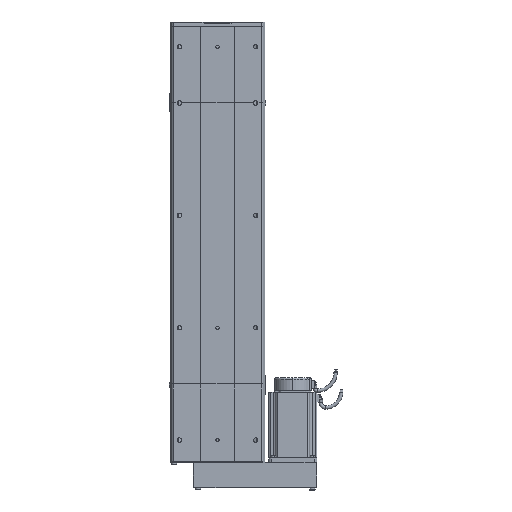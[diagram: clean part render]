
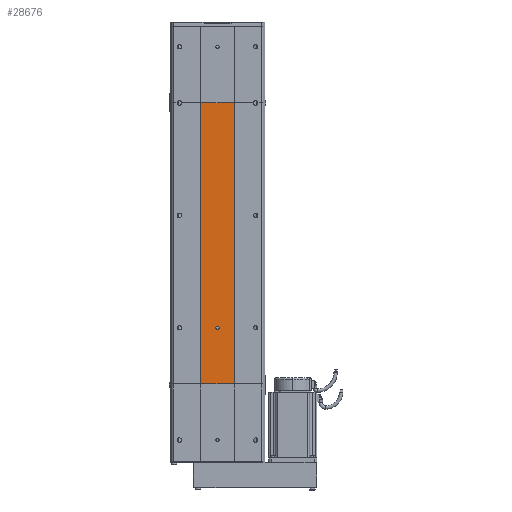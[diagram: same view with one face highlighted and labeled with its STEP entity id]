
A CAD part, front view. The second image highlights one B-rep face of the part: STEP entity #28676.
In plain terms, the highlighted planar face has unit normal (0, -1, 0).
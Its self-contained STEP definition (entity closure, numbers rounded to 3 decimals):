
#27514 = VERTEX_POINT ( 'NONE', #67497 ) ;
#27530 = VERTEX_POINT ( 'NONE', #67398 ) ;
#27653 = VERTEX_POINT ( 'NONE', #61915 ) ;
#27743 = EDGE_CURVE ( 'NONE', #27653, #27514, #61968, .T. ) ;
#27796 = VERTEX_POINT ( 'NONE', #61982 ) ;
#27813 = EDGE_CURVE ( 'NONE', #27796, #27530, #62169, .T. ) ;
#28532 = EDGE_CURVE ( 'NONE', #28535, #28638, #64085, .T. ) ;
#28535 = VERTEX_POINT ( 'NONE', #64138 ) ;
#28638 = VERTEX_POINT ( 'NONE', #64395 ) ;
#28676 = ADVANCED_FACE ( 'NONE', ( #64330, #64334 ), #64333, .F. ) ;
#28677 = ORIENTED_EDGE ( 'NONE', *, *, #27743, .F. ) ;
#28679 = ORIENTED_EDGE ( 'NONE', *, *, #28685, .F. ) ;
#28685 = EDGE_CURVE ( 'NONE', #28638, #27530, #64374, .T. ) ;
#28727 = ORIENTED_EDGE ( 'NONE', *, *, #28815, .T. ) ;
#28743 = ORIENTED_EDGE ( 'NONE', *, *, #28532, .F. ) ;
#28760 = ORIENTED_EDGE ( 'NONE', *, *, #28855, .F. ) ;
#28815 = EDGE_CURVE ( 'NONE', #28535, #27796, #64451, .T. ) ;
#28819 = EDGE_LOOP ( 'NONE', ( #28760, #28677 ) ) ;
#28847 = EDGE_LOOP ( 'NONE', ( #28859, #28679, #28743, #28727 ) ) ;
#28855 = EDGE_CURVE ( 'NONE', #27514, #27653, #64814, .T. ) ;
#28859 = ORIENTED_EDGE ( 'NONE', *, *, #27813, .T. ) ;
#61915 = CARTESIAN_POINT ( 'NONE',  ( 0., -32.5, 103. ) ) ;
#61966 = CARTESIAN_POINT ( 'NONE',  ( 0., -32.5, 100. ) ) ;
#61967 = AXIS2_PLACEMENT_3D ( 'NONE', #61966, #62118, #62117 ) ;
#61968 = CIRCLE ( 'NONE', #61967, 3. ) ;
#61982 = CARTESIAN_POINT ( 'NONE',  ( 30., -32.5, 500. ) ) ;
#62117 = DIRECTION ( 'NONE',  ( 0., 0., -1. ) ) ;
#62118 = DIRECTION ( 'NONE',  ( 0., -1., 0. ) ) ;
#62166 = DIRECTION ( 'NONE',  ( -1., 0., 0. ) ) ;
#62167 = VECTOR ( 'NONE', #62166, 1000. ) ;
#62168 = CARTESIAN_POINT ( 'NONE',  ( -30., -32.5, 500. ) ) ;
#62169 = LINE ( 'NONE', #62168, #62167 ) ;
#64085 = LINE ( 'NONE', #64106, #64105 ) ;
#64104 = DIRECTION ( 'NONE',  ( -1., 0., 0. ) ) ;
#64105 = VECTOR ( 'NONE', #64104, 1000. ) ;
#64106 = CARTESIAN_POINT ( 'NONE',  ( -30., -32.5, 0. ) ) ;
#64138 = CARTESIAN_POINT ( 'NONE',  ( 30., -32.5, 0. ) ) ;
#64280 = VECTOR ( 'NONE', #64377, 1000. ) ;
#64285 = CARTESIAN_POINT ( 'NONE',  ( -30., -32.5, 0. ) ) ;
#64329 = CARTESIAN_POINT ( 'NONE',  ( -30., -32.5, 0. ) ) ;
#64330 = FACE_BOUND ( 'NONE', #28819, .T. ) ;
#64333 = PLANE ( 'NONE',  #64371 ) ;
#64334 = FACE_OUTER_BOUND ( 'NONE', #28847, .T. ) ;
#64371 = AXIS2_PLACEMENT_3D ( 'NONE', #64329, #64385, #64384 ) ;
#64374 = LINE ( 'NONE', #64285, #64280 ) ;
#64377 = DIRECTION ( 'NONE',  ( 0., 0., 1. ) ) ;
#64384 = DIRECTION ( 'NONE',  ( 0., 0., 1. ) ) ;
#64385 = DIRECTION ( 'NONE',  ( 0., 1., 0. ) ) ;
#64395 = CARTESIAN_POINT ( 'NONE',  ( -30., -32.5, 0. ) ) ;
#64448 = DIRECTION ( 'NONE',  ( 0., 0., 1. ) ) ;
#64449 = VECTOR ( 'NONE', #64448, 1000. ) ;
#64450 = CARTESIAN_POINT ( 'NONE',  ( 30., -32.5, 0. ) ) ;
#64451 = LINE ( 'NONE', #64450, #64449 ) ;
#64811 = DIRECTION ( 'NONE',  ( 0., 0., -1. ) ) ;
#64812 = DIRECTION ( 'NONE',  ( 0., -1., 0. ) ) ;
#64814 = CIRCLE ( 'NONE', #64820, 3. ) ;
#64819 = CARTESIAN_POINT ( 'NONE',  ( 0., -32.5, 100. ) ) ;
#64820 = AXIS2_PLACEMENT_3D ( 'NONE', #64819, #64812, #64811 ) ;
#67398 = CARTESIAN_POINT ( 'NONE',  ( -30., -32.5, 500. ) ) ;
#67497 = CARTESIAN_POINT ( 'NONE',  ( 0., -32.5, 97. ) ) ;
